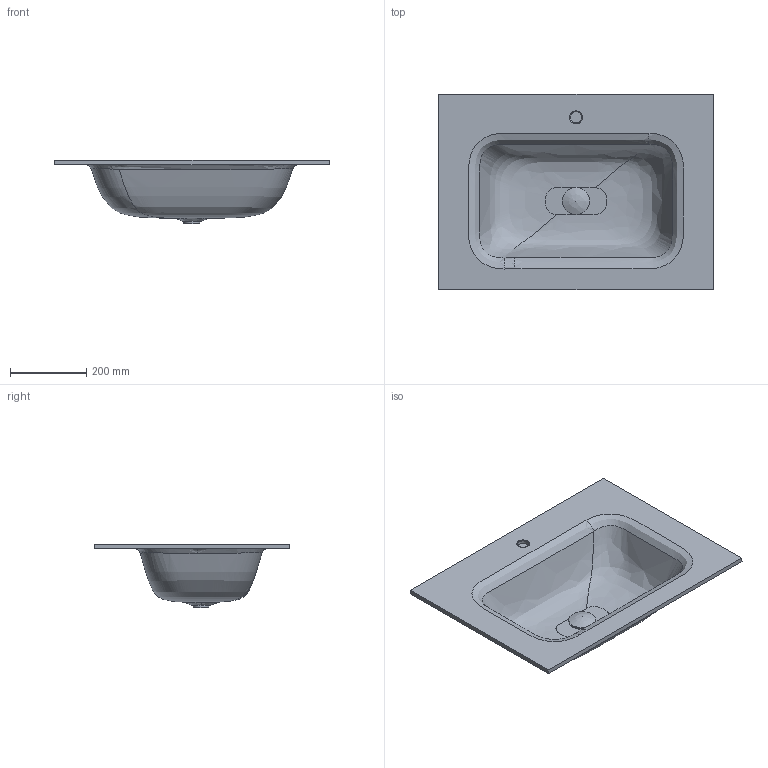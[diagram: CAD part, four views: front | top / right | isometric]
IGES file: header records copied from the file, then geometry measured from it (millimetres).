
Start section: Data from Parasolid IGES Translator 19.0.9, Copyright(c) 2006 Siemens PL M Software. All Rights Reserved.
Global section: file name: noorth-top-H 1,2 D 51,3 W 72_4781.igs; native system: By Siemens PLM Incorporated; preprocessor: XPlus GENERIC/IGES 19.0.9; author: Noname; organization: Noname; date: 20200603.103714; units: metre
Bounding box: 720 x 513 x 166.92 mm (x, y, z)
Volume: 5273444.3 mm3; surface area: 1012076.2 mm2
Topology: 4 solids, 4 shells, 69 faces, 211 edges, 154 vertices
Faces by surface type: plane 23, bspline 20, revolution 13, cylinder 9, extrusion 3, cone 1
Full cylindrical faces by diameter (mm): 0.043 x1, 19.989 x1, 30 x1, 62.239 x1, 71.973 x1
